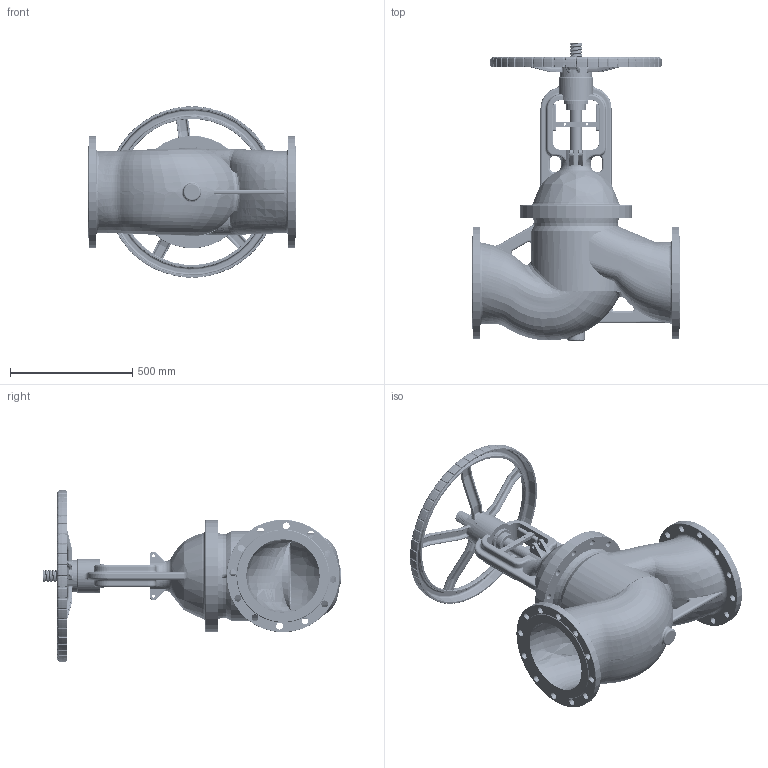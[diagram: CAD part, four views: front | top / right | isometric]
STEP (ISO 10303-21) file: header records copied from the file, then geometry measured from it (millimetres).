
FILE_DESCRIPTION(/* description */ ('STEP AP203'),/* implementation_level */ '2;1');
FILE_NAME(/* name */ '',/* time_stamp */ '2025-02-21T11:59:01+07:00',/* author */ ('Eva'),/* organization */ (''),/* preprocessor_version */ 'ST-DEVELOPER v20',/* originating_system */ 'Autodesk Inventor 2025',/* authorisation */ '');
FILE_SCHEMA (('AUTOMOTIVE_DESIGN { 1 0 10303 214 3 1 1 }'));
Products named in the file (7): 波纹管-300; 德标波纹管300阀体; 波纹管截止阀盖300; 波纹管300阀杆螺母; 波纹管阀杆300; 300手轮; 波纹管300限位块
Assembly tree (7 placements, depth 2):
  波纹管-300
    德标波纹管300阀体
    波纹管截止阀盖300
    波纹管300阀杆螺母
    波纹管300限位块  x2
    波纹管阀杆300
    300手轮
Bounding box: 850 x 1215.95 x 699.98 mm (x, y, z)
Volume: 41598361.7 mm3; surface area: 4526587.2 mm2
Topology: 7 solids, 7 shells, 1954 faces, 5180 edges, 3198 vertices
Faces by surface type: cylinder 855, bspline 296, plane 287, torus 254, cone 235, sphere 27
Full cylindrical faces by diameter (mm): 10 x176, 10.344 x172, 12 x4, 24 x1, 25 x24, 28 x24, 43.5 x10, 44.563 x66, 48 x68, 52 x1, 58.464 x1, 62 x1, 68 x1, 80 x2, 81 x1, 100 x1, 110 x1, 132 x1, 140 x1, 270 x1, 282 x1, 300 x2, 306 x1, 350 x1, 460 x4
Entity records: 375598 total; most frequent: CARTESIAN_POINT 336041, ORIENTED_EDGE 9102, DIRECTION 7299, EDGE_CURVE 4551, AXIS2_PLACEMENT_3D 3016, VERTEX_POINT 2811, EDGE_LOOP 1906, FACE_OUTER_BOUND 1758
